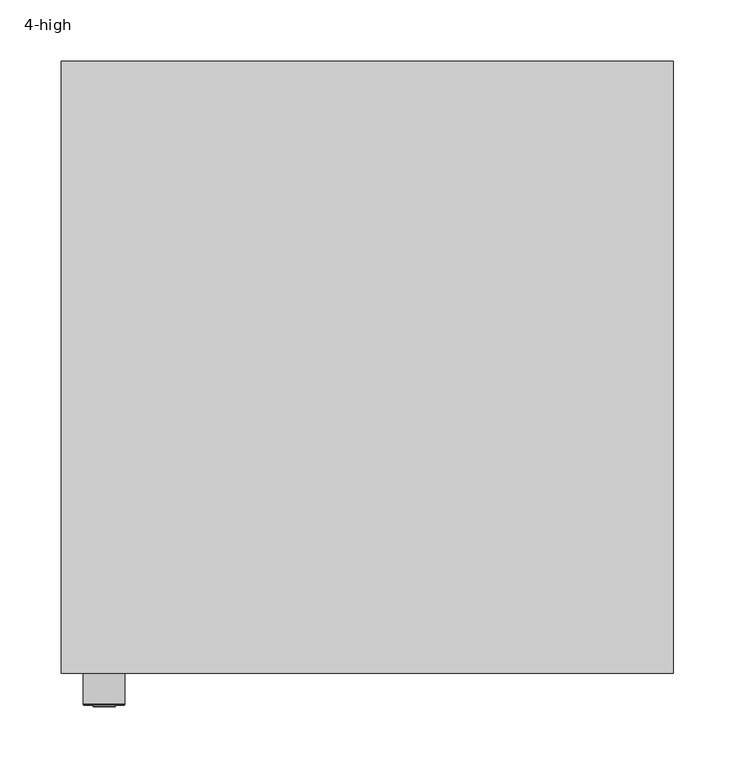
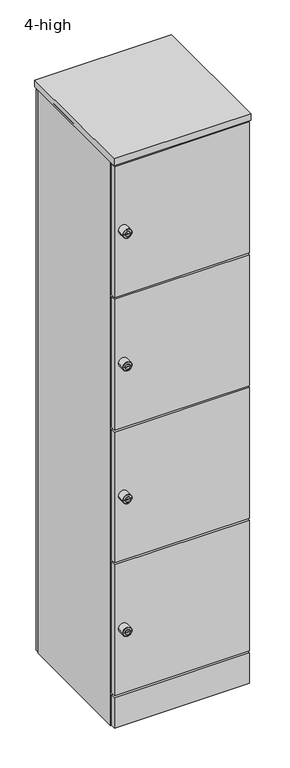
"""IFC4 building model written with IfcOpenShell, lengths in millimetres: furniture geometry, Furniture_Storage_Spacestor_SignatureHotLocker : 4-high."""

from ifc_helpers import new_model, si_unit, point, frame, origin, origin_with_axes, place, context, project, spatial, polyline, circle_curve, ellipse_curve, trimmed, outline, extrude, source, transform, mapped, element, save
from ifc_brep_helpers import plane_surface, cylinder_surface, revolved_surface, advanced_brep


def furniture_4_high_dffadb12(model_context):
    return source(origin(), model_context, "Body", "SolidModel", [
        extrude(outline(polyline([(489.0, 0.0), (11.0, 0.0), (11.0, 459.0), (489.0, 459.0), (489.0, 0.0)])), frame((0.0, 0.0, 2158.5), z_axis=(0.0, 0.0, 1.0), x_axis=(1.0, 0.0, 0.0)), (0.0, 0.0, 1.0), 22.0),
        extrude(outline(polyline([(489.0, 0.0), (11.0, 0.0), (11.0, 459.0), (489.0, 459.0), (489.0, 0.0)])), frame((0.0, 0.0, 1646.5), z_axis=(0.0, 0.0, 1.0), x_axis=(1.0, 0.0, 0.0)), (0.0, 0.0, 1.0), 22.0),
        extrude(outline(polyline([(489.0, 0.0), (11.0, 0.0), (11.0, 459.0), (489.0, 459.0), (489.0, 0.0)])), frame((0.0, 0.0, 1134.5), z_axis=(0.0, 0.0, 1.0), x_axis=(1.0, 0.0, 0.0)), (0.0, 0.0, 1.0), 22.0),
        extrude(outline(polyline([(489.0, 0.0), (11.0, 0.0), (11.0, 459.0), (489.0, 459.0), (489.0, 0.0)])), frame((0.0, 0.0, 622.5), z_axis=(0.0, 0.0, 1.0), x_axis=(1.0, 0.0, 0.0)), (0.0, 0.0, 1.0), 22.0),
        advanced_brep(
        [(18.0, -45.3116344, 1913.5), (52.0, -45.3116344, 1913.5), (52.0, -18.0, 1913.5), (18.0, -18.0, 1913.5), (35.0, -18.0, 1913.5), (26.0252681, -46.3150077, 1913.5), (43.9747319, -46.3150077, 1913.5), (50.9966266, -46.3150077, 1913.5), (19.0033734, -46.3150077, 1913.5), (26.0252681, -47.4703043, 1913.5), (43.9747319, -47.4703043, 1913.5), (30.1754848, -47.4703043, 1913.5), (30.1754848, -47.4703043, 1914.8633438), (39.8245152, -47.4703043, 1914.8633438), (39.8245152, -47.4703043, 1913.5), (39.8245152, -47.4703043, 1912.1366562), (30.1754848, -47.4703043, 1912.1366562), (39.8245152, -27.8604291, 1914.8633438), (30.1754848, -27.8604291, 1914.8633438), (30.1754848, -27.8604291, 1912.1366562), (39.8245152, -27.8604291, 1912.1366562)],
        [
            (0, 1, circle_curve(frame((35.0, -45.3116344, 1913.5), z_axis=(0.0, 1.0, 0.0), x_axis=(1.0, 0.0, 0.0)), 17.0)),
            (1, 2),
            (2, 3, circle_curve(frame((35.0, -18.0, 1913.5), z_axis=(0.0, -1.0, 0.0), x_axis=(1.0, 0.0, 0.0)), 17.0)),
            (3, 0),
            (1, 0, circle_curve(frame((35.0, -45.3116344, 1913.5), z_axis=(0.0, 1.0, 0.0), x_axis=(1.0, 0.0, 0.0)), 17.0)),
            (3, 2, circle_curve(frame((35.0, -18.0, 1913.5), z_axis=(0.0, -1.0, 0.0), x_axis=(1.0, 0.0, 0.0)), 17.0)),
            (2, 4),
            (4, 3),
            (5, 6, circle_curve(frame((35.0, -46.3150077, 1913.5), z_axis=(0.0, 1.0, 0.0), x_axis=(1.0, 0.0, 0.0)), 8.9747319)),
            (6, 7),
            (7, 8, circle_curve(frame((35.0, -46.3150077, 1913.5), z_axis=(0.0, -1.0, 0.0), x_axis=(1.0, 0.0, 0.0)), 15.9966266)),
            (8, 5),
            (6, 5, circle_curve(frame((35.0, -46.3150077, 1913.5), z_axis=(0.0, 1.0, 0.0), x_axis=(1.0, 0.0, 0.0)), 8.9747319)),
            (8, 7, circle_curve(frame((35.0, -46.3150077, 1913.5), z_axis=(0.0, -1.0, 0.0), x_axis=(1.0, 0.0, 0.0)), 15.9966266)),
            (0, 8, circle_curve(frame((19.0033734, -45.3116344, 1913.5), z_axis=(0.0, 0.0, 1.0), x_axis=(-1.0, 0.0, 0.0)), 1.0033734)),
            (7, 1, circle_curve(frame((50.9966266, -45.3116344, 1913.5), z_axis=(0.0, 0.0, 1.0), x_axis=(1.0, 0.0, 0.0)), 1.0033734)),
            (5, 9),
            (9, 10, circle_curve(frame((35.0, -47.4703043, 1913.5), z_axis=(0.0, 1.0, 0.0), x_axis=(1.0, 0.0, 0.0)), 8.9747319)),
            (10, 6),
            (10, 9, circle_curve(frame((35.0, -47.4703043, 1913.5), z_axis=(0.0, 1.0, 0.0), x_axis=(1.0, 0.0, 0.0)), 8.9747319)),
            (9, 11),
            (11, 12),
            (12, 13),
            (13, 14),
            (14, 10),
            (14, 15),
            (15, 16),
            (16, 11),
            (17, 18),
            (18, 19),
            (19, 20),
            (20, 17),
            (17, 13),
            (12, 18),
            (16, 19),
            (15, 20),
        ],
        [
            cylinder_surface(frame((35.0, -2627.0581012, 1913.5), z_axis=(0.0, -1.0, 0.0), x_axis=(1.0, 0.0, 0.0)), 17.0),
            plane_surface(frame((35.0, -18.0, 1913.5), z_axis=(0.0, 1.0, 0.0), x_axis=(1.0, 0.0, 0.0))),
            plane_surface(frame((35.0, -46.3150077, 1913.5), z_axis=(0.0, -1.0, 0.0), x_axis=(1.0, 0.0, 0.0))),
            revolved_surface(trimmed(ellipse_curve(frame((50.9966266, -45.3116344, 1913.5), z_axis=(0.0, 0.0, -1.0), x_axis=(1.0, 0.0, 0.0)), 1.0033734, 1.0033734), [point((52.0, -45.3116344, 1913.5))], [point((50.9966266, -46.3150077, 1913.5))], True, "CARTESIAN"), (35.0, -2627.0581012, 1913.5), (0.0, -1.0, 0.0)),
            cylinder_surface(frame((35.0, -2627.0581012, 1913.5), z_axis=(0.0, -1.0, 0.0), x_axis=(1.0, 0.0, 0.0)), 8.9747319),
            plane_surface(frame((35.0, -47.4703043, 1913.5), z_axis=(0.0, -1.0, 0.0), x_axis=(1.0, 0.0, 0.0))),
            plane_surface(frame((30.5434751, -27.8604291, 1914.8633438), z_axis=(0.0, -1.0, 0.0), x_axis=(1.0, 0.0, 0.0))),
            plane_surface(frame((39.8245152, -49.2046383, 1914.8633438), z_axis=(0.0, 0.0, -1.0), x_axis=(0.0, 1.0, 0.0))),
            plane_surface(frame((30.1754848, -49.2046383, 1914.8633438), z_axis=(1.0, 0.0, 0.0), x_axis=(0.0, 1.0, 0.0))),
            plane_surface(frame((30.1754848, -49.2046383, 1912.1366562), z_axis=(0.0, 0.0, 1.0), x_axis=(0.0, 1.0, 0.0))),
            plane_surface(frame((39.8245152, -49.2046383, 1912.1366562), z_axis=(-1.0, 0.0, 0.0), x_axis=(0.0, 1.0, 0.0))),
        ],
        [
            (0, [[1, 2, 3, 4]]),
            (0, [[-2, 5, -4, 6]]),
            (1, [[-3, 7, 8]]),
            (1, [[-6, -8, -7]]),
            (2, [[9, 10, 11, 12]]),
            (2, [[-10, 13, -12, 14]]),
            (3, [[-1, 15, -11, 16]]),
            (3, [[-5, -16, -14, -15]]),
            (4, [[-9, 17, 18, 19]]),
            (4, [[-13, -19, 20, -17]]),
            (5, [[-18, 21, 22, 23, 24, 25]]),
            (5, [[-20, -25, 26, 27, 28, -21]]),
            (6, [[29, 30, 31, 32]]),
            (7, [[-29, 33, -23, 34]]),
            (8, [[-30, -34, -22, -28, 35]]),
            (9, [[-31, -35, -27, 36]]),
            (10, [[-32, -36, -26, -24, -33]]),
        ],
    ),
        advanced_brep(
        [(18.0, -45.3116344, 1401.5), (52.0, -45.3116344, 1401.5), (52.0, -18.0, 1401.5), (18.0, -18.0, 1401.5), (35.0, -18.0, 1401.5), (26.0252681, -46.3150077, 1401.5), (43.9747319, -46.3150077, 1401.5), (50.9966266, -46.3150077, 1401.5), (19.0033734, -46.3150077, 1401.5), (26.0252681, -47.4703043, 1401.5), (43.9747319, -47.4703043, 1401.5), (30.1754848, -47.4703043, 1401.5), (30.1754848, -47.4703043, 1402.8633438), (39.8245152, -47.4703043, 1402.8633438), (39.8245152, -47.4703043, 1401.5), (39.8245152, -47.4703043, 1400.1366562), (30.1754848, -47.4703043, 1400.1366562), (39.8245152, -27.8604291, 1402.8633438), (30.1754848, -27.8604291, 1402.8633438), (30.1754848, -27.8604291, 1400.1366562), (39.8245152, -27.8604291, 1400.1366562)],
        [
            (0, 1, circle_curve(frame((35.0, -45.3116344, 1401.5), z_axis=(0.0, 1.0, 0.0), x_axis=(1.0, 0.0, 0.0)), 17.0)),
            (1, 2),
            (2, 3, circle_curve(frame((35.0, -18.0, 1401.5), z_axis=(0.0, -1.0, 0.0), x_axis=(1.0, 0.0, 0.0)), 17.0)),
            (3, 0),
            (1, 0, circle_curve(frame((35.0, -45.3116344, 1401.5), z_axis=(0.0, 1.0, 0.0), x_axis=(1.0, 0.0, 0.0)), 17.0)),
            (3, 2, circle_curve(frame((35.0, -18.0, 1401.5), z_axis=(0.0, -1.0, 0.0), x_axis=(1.0, 0.0, 0.0)), 17.0)),
            (2, 4),
            (4, 3),
            (5, 6, circle_curve(frame((35.0, -46.3150077, 1401.5), z_axis=(0.0, 1.0, 0.0), x_axis=(1.0, 0.0, 0.0)), 8.9747319)),
            (6, 7),
            (7, 8, circle_curve(frame((35.0, -46.3150077, 1401.5), z_axis=(0.0, -1.0, 0.0), x_axis=(1.0, 0.0, 0.0)), 15.9966266)),
            (8, 5),
            (6, 5, circle_curve(frame((35.0, -46.3150077, 1401.5), z_axis=(0.0, 1.0, 0.0), x_axis=(1.0, 0.0, 0.0)), 8.9747319)),
            (8, 7, circle_curve(frame((35.0, -46.3150077, 1401.5), z_axis=(0.0, -1.0, 0.0), x_axis=(1.0, 0.0, 0.0)), 15.9966266)),
            (0, 8, circle_curve(frame((19.0033734, -45.3116344, 1401.5), z_axis=(0.0, 0.0, 1.0), x_axis=(-1.0, 0.0, 0.0)), 1.0033734)),
            (7, 1, circle_curve(frame((50.9966266, -45.3116344, 1401.5), z_axis=(0.0, 0.0, 1.0), x_axis=(1.0, 0.0, 0.0)), 1.0033734)),
            (5, 9),
            (9, 10, circle_curve(frame((35.0, -47.4703043, 1401.5), z_axis=(0.0, 1.0, 0.0), x_axis=(1.0, 0.0, 0.0)), 8.9747319)),
            (10, 6),
            (10, 9, circle_curve(frame((35.0, -47.4703043, 1401.5), z_axis=(0.0, 1.0, 0.0), x_axis=(1.0, 0.0, 0.0)), 8.9747319)),
            (9, 11),
            (11, 12),
            (12, 13),
            (13, 14),
            (14, 10),
            (14, 15),
            (15, 16),
            (16, 11),
            (17, 18),
            (18, 19),
            (19, 20),
            (20, 17),
            (17, 13),
            (12, 18),
            (16, 19),
            (15, 20),
        ],
        [
            cylinder_surface(frame((35.0, -2627.0581012, 1401.5), z_axis=(0.0, -1.0, 0.0), x_axis=(1.0, 0.0, 0.0)), 17.0),
            plane_surface(frame((35.0, -18.0, 1401.5), z_axis=(0.0, 1.0, 0.0), x_axis=(1.0, 0.0, 0.0))),
            plane_surface(frame((35.0, -46.3150077, 1401.5), z_axis=(0.0, -1.0, 0.0), x_axis=(1.0, 0.0, 0.0))),
            revolved_surface(trimmed(ellipse_curve(frame((50.9966266, -45.3116344, 1401.5), z_axis=(0.0, 0.0, -1.0), x_axis=(1.0, 0.0, 0.0)), 1.0033734, 1.0033734), [point((52.0, -45.3116344, 1401.5))], [point((50.9966266, -46.3150077, 1401.5))], True, "CARTESIAN"), (35.0, -2627.0581012, 1401.5), (0.0, -1.0, 0.0)),
            cylinder_surface(frame((35.0, -2627.0581012, 1401.5), z_axis=(0.0, -1.0, 0.0), x_axis=(1.0, 0.0, 0.0)), 8.9747319),
            plane_surface(frame((35.0, -47.4703043, 1401.5), z_axis=(0.0, -1.0, 0.0), x_axis=(1.0, 0.0, 0.0))),
            plane_surface(frame((30.5434751, -27.8604291, 1402.8633438), z_axis=(0.0, -1.0, 0.0), x_axis=(1.0, 0.0, 0.0))),
            plane_surface(frame((39.8245152, -49.2046383, 1402.8633438), z_axis=(0.0, 0.0, -1.0), x_axis=(0.0, 1.0, 0.0))),
            plane_surface(frame((30.1754848, -49.2046383, 1402.8633438), z_axis=(1.0, 0.0, 0.0), x_axis=(0.0, 1.0, 0.0))),
            plane_surface(frame((30.1754848, -49.2046383, 1400.1366562), z_axis=(0.0, 0.0, 1.0), x_axis=(0.0, 1.0, 0.0))),
            plane_surface(frame((39.8245152, -49.2046383, 1400.1366562), z_axis=(-1.0, 0.0, 0.0), x_axis=(0.0, 1.0, 0.0))),
        ],
        [
            (0, [[1, 2, 3, 4]]),
            (0, [[-2, 5, -4, 6]]),
            (1, [[-3, 7, 8]]),
            (1, [[-6, -8, -7]]),
            (2, [[9, 10, 11, 12]]),
            (2, [[-10, 13, -12, 14]]),
            (3, [[-1, 15, -11, 16]]),
            (3, [[-5, -16, -14, -15]]),
            (4, [[-9, 17, 18, 19]]),
            (4, [[-13, -19, 20, -17]]),
            (5, [[-18, 21, 22, 23, 24, 25]]),
            (5, [[-20, -25, 26, 27, 28, -21]]),
            (6, [[29, 30, 31, 32]]),
            (7, [[-29, 33, -23, 34]]),
            (8, [[-30, -34, -22, -28, 35]]),
            (9, [[-31, -35, -27, 36]]),
            (10, [[-32, -36, -26, -24, -33]]),
        ],
    ),
        advanced_brep(
        [(18.0, -45.3116344, 889.5), (52.0, -45.3116344, 889.5), (52.0, -18.0, 889.5), (18.0, -18.0, 889.5), (35.0, -18.0, 889.5), (26.0252681, -46.3150077, 889.5), (43.9747319, -46.3150077, 889.5), (50.9966266, -46.3150077, 889.5), (19.0033734, -46.3150077, 889.5), (26.0252681, -47.4703043, 889.5), (43.9747319, -47.4703043, 889.5), (30.1754848, -47.4703043, 889.5), (30.1754848, -47.4703043, 890.8633438), (39.8245152, -47.4703043, 890.8633438), (39.8245152, -47.4703043, 889.5), (39.8245152, -47.4703043, 888.1366562), (30.1754848, -47.4703043, 888.1366562), (39.8245152, -27.8604291, 890.8633438), (30.1754848, -27.8604291, 890.8633438), (30.1754848, -27.8604291, 888.1366562), (39.8245152, -27.8604291, 888.1366562)],
        [
            (0, 1, circle_curve(frame((35.0, -45.3116344, 889.5), z_axis=(0.0, 1.0, 0.0), x_axis=(1.0, 0.0, 0.0)), 17.0)),
            (1, 2),
            (2, 3, circle_curve(frame((35.0, -18.0, 889.5), z_axis=(0.0, -1.0, 0.0), x_axis=(1.0, 0.0, 0.0)), 17.0)),
            (3, 0),
            (1, 0, circle_curve(frame((35.0, -45.3116344, 889.5), z_axis=(0.0, 1.0, 0.0), x_axis=(1.0, 0.0, 0.0)), 17.0)),
            (3, 2, circle_curve(frame((35.0, -18.0, 889.5), z_axis=(0.0, -1.0, 0.0), x_axis=(1.0, 0.0, 0.0)), 17.0)),
            (2, 4),
            (4, 3),
            (5, 6, circle_curve(frame((35.0, -46.3150077, 889.5), z_axis=(0.0, 1.0, 0.0), x_axis=(1.0, 0.0, 0.0)), 8.9747319)),
            (6, 7),
            (7, 8, circle_curve(frame((35.0, -46.3150077, 889.5), z_axis=(0.0, -1.0, 0.0), x_axis=(1.0, 0.0, 0.0)), 15.9966266)),
            (8, 5),
            (6, 5, circle_curve(frame((35.0, -46.3150077, 889.5), z_axis=(0.0, 1.0, 0.0), x_axis=(1.0, 0.0, 0.0)), 8.9747319)),
            (8, 7, circle_curve(frame((35.0, -46.3150077, 889.5), z_axis=(0.0, -1.0, 0.0), x_axis=(1.0, 0.0, 0.0)), 15.9966266)),
            (0, 8, circle_curve(frame((19.0033734, -45.3116344, 889.5), z_axis=(0.0, 0.0, 1.0), x_axis=(-1.0, 0.0, 0.0)), 1.0033734)),
            (7, 1, circle_curve(frame((50.9966266, -45.3116344, 889.5), z_axis=(0.0, 0.0, 1.0), x_axis=(1.0, 0.0, 0.0)), 1.0033734)),
            (5, 9),
            (9, 10, circle_curve(frame((35.0, -47.4703043, 889.5), z_axis=(0.0, 1.0, 0.0), x_axis=(1.0, 0.0, 0.0)), 8.9747319)),
            (10, 6),
            (10, 9, circle_curve(frame((35.0, -47.4703043, 889.5), z_axis=(0.0, 1.0, 0.0), x_axis=(1.0, 0.0, 0.0)), 8.9747319)),
            (9, 11),
            (11, 12),
            (12, 13),
            (13, 14),
            (14, 10),
            (14, 15),
            (15, 16),
            (16, 11),
            (17, 18),
            (18, 19),
            (19, 20),
            (20, 17),
            (17, 13),
            (12, 18),
            (16, 19),
            (15, 20),
        ],
        [
            cylinder_surface(frame((35.0, -2627.0581012, 889.5), z_axis=(0.0, -1.0, 0.0), x_axis=(1.0, 0.0, 0.0)), 17.0),
            plane_surface(frame((35.0, -18.0, 889.5), z_axis=(0.0, 1.0, 0.0), x_axis=(1.0, 0.0, 0.0))),
            plane_surface(frame((35.0, -46.3150077, 889.5), z_axis=(0.0, -1.0, 0.0), x_axis=(1.0, 0.0, 0.0))),
            revolved_surface(trimmed(ellipse_curve(frame((50.9966266, -45.3116344, 889.5), z_axis=(0.0, 0.0, -1.0), x_axis=(1.0, 0.0, 0.0)), 1.0033734, 1.0033734), [point((52.0, -45.3116344, 889.5))], [point((50.9966266, -46.3150077, 889.5))], True, "CARTESIAN"), (35.0, -2627.0581012, 889.5), (0.0, -1.0, 0.0)),
            cylinder_surface(frame((35.0, -2627.0581012, 889.5), z_axis=(0.0, -1.0, 0.0), x_axis=(1.0, 0.0, 0.0)), 8.9747319),
            plane_surface(frame((35.0, -47.4703043, 889.5), z_axis=(0.0, -1.0, 0.0), x_axis=(1.0, 0.0, 0.0))),
            plane_surface(frame((30.5434751, -27.8604291, 890.8633438), z_axis=(0.0, -1.0, 0.0), x_axis=(1.0, 0.0, 0.0))),
            plane_surface(frame((39.8245152, -49.2046383, 890.8633438), z_axis=(0.0, 0.0, -1.0), x_axis=(0.0, 1.0, 0.0))),
            plane_surface(frame((30.1754848, -49.2046383, 890.8633438), z_axis=(1.0, 0.0, 0.0), x_axis=(0.0, 1.0, 0.0))),
            plane_surface(frame((30.1754848, -49.2046383, 888.1366562), z_axis=(0.0, 0.0, 1.0), x_axis=(0.0, 1.0, 0.0))),
            plane_surface(frame((39.8245152, -49.2046383, 888.1366562), z_axis=(-1.0, 0.0, 0.0), x_axis=(0.0, 1.0, 0.0))),
        ],
        [
            (0, [[1, 2, 3, 4]]),
            (0, [[-2, 5, -4, 6]]),
            (1, [[-3, 7, 8]]),
            (1, [[-6, -8, -7]]),
            (2, [[9, 10, 11, 12]]),
            (2, [[-10, 13, -12, 14]]),
            (3, [[-1, 15, -11, 16]]),
            (3, [[-5, -16, -14, -15]]),
            (4, [[-9, 17, 18, 19]]),
            (4, [[-13, -19, 20, -17]]),
            (5, [[-18, 21, 22, 23, 24, 25]]),
            (5, [[-20, -25, 26, 27, 28, -21]]),
            (6, [[29, 30, 31, 32]]),
            (7, [[-29, 33, -23, 34]]),
            (8, [[-30, -34, -22, -28, 35]]),
            (9, [[-31, -35, -27, 36]]),
            (10, [[-32, -36, -26, -24, -33]]),
        ],
    ),
        advanced_brep(
        [(18.0, -45.3116344, 377.5), (52.0, -45.3116344, 377.5), (52.0, -18.0, 377.5), (18.0, -18.0, 377.5), (35.0, -18.0, 377.5), (26.0252681, -46.3150077, 377.5), (43.9747319, -46.3150077, 377.5), (50.9966266, -46.3150077, 377.5), (19.0033734, -46.3150077, 377.5), (26.0252681, -47.4703043, 377.5), (43.9747319, -47.4703043, 377.5), (30.1754848, -47.4703043, 377.5), (30.1754848, -47.4703043, 378.8633438), (39.8245152, -47.4703043, 378.8633438), (39.8245152, -47.4703043, 377.5), (39.8245152, -47.4703043, 376.1366562), (30.1754848, -47.4703043, 376.1366562), (39.8245152, -27.8604291, 378.8633438), (30.1754848, -27.8604291, 378.8633438), (30.1754848, -27.8604291, 376.1366562), (39.8245152, -27.8604291, 376.1366562)],
        [
            (0, 1, circle_curve(frame((35.0, -45.3116344, 377.5), z_axis=(0.0, 1.0, 0.0), x_axis=(1.0, 0.0, 0.0)), 17.0)),
            (1, 2),
            (2, 3, circle_curve(frame((35.0, -18.0, 377.5), z_axis=(0.0, -1.0, 0.0), x_axis=(1.0, 0.0, 0.0)), 17.0)),
            (3, 0),
            (1, 0, circle_curve(frame((35.0, -45.3116344, 377.5), z_axis=(0.0, 1.0, 0.0), x_axis=(1.0, 0.0, 0.0)), 17.0)),
            (3, 2, circle_curve(frame((35.0, -18.0, 377.5), z_axis=(0.0, -1.0, 0.0), x_axis=(1.0, 0.0, 0.0)), 17.0)),
            (2, 4),
            (4, 3),
            (5, 6, circle_curve(frame((35.0, -46.3150077, 377.5), z_axis=(0.0, 1.0, 0.0), x_axis=(1.0, 0.0, 0.0)), 8.9747319)),
            (6, 7),
            (7, 8, circle_curve(frame((35.0, -46.3150077, 377.5), z_axis=(0.0, -1.0, 0.0), x_axis=(1.0, 0.0, 0.0)), 15.9966266)),
            (8, 5),
            (6, 5, circle_curve(frame((35.0, -46.3150077, 377.5), z_axis=(0.0, 1.0, 0.0), x_axis=(1.0, 0.0, 0.0)), 8.9747319)),
            (8, 7, circle_curve(frame((35.0, -46.3150077, 377.5), z_axis=(0.0, -1.0, 0.0), x_axis=(1.0, 0.0, 0.0)), 15.9966266)),
            (0, 8, circle_curve(frame((19.0033734, -45.3116344, 377.5), z_axis=(0.0, 0.0, 1.0), x_axis=(-1.0, 0.0, 0.0)), 1.0033734)),
            (7, 1, circle_curve(frame((50.9966266, -45.3116344, 377.5), z_axis=(0.0, 0.0, 1.0), x_axis=(1.0, 0.0, 0.0)), 1.0033734)),
            (5, 9),
            (9, 10, circle_curve(frame((35.0, -47.4703043, 377.5), z_axis=(0.0, 1.0, 0.0), x_axis=(1.0, 0.0, 0.0)), 8.9747319)),
            (10, 6),
            (10, 9, circle_curve(frame((35.0, -47.4703043, 377.5), z_axis=(0.0, 1.0, 0.0), x_axis=(1.0, 0.0, 0.0)), 8.9747319)),
            (9, 11),
            (11, 12),
            (12, 13),
            (13, 14),
            (14, 10),
            (14, 15),
            (15, 16),
            (16, 11),
            (17, 18),
            (18, 19),
            (19, 20),
            (20, 17),
            (17, 13),
            (12, 18),
            (16, 19),
            (15, 20),
        ],
        [
            cylinder_surface(frame((35.0, -2627.0581012, 377.5), z_axis=(0.0, -1.0, 0.0), x_axis=(1.0, 0.0, 0.0)), 17.0),
            plane_surface(frame((35.0, -18.0, 377.5), z_axis=(0.0, 1.0, 0.0), x_axis=(1.0, 0.0, 0.0))),
            plane_surface(frame((35.0, -46.3150077, 377.5), z_axis=(0.0, -1.0, 0.0), x_axis=(1.0, 0.0, 0.0))),
            revolved_surface(trimmed(ellipse_curve(frame((50.9966266, -45.3116344, 377.5), z_axis=(0.0, 0.0, -1.0), x_axis=(1.0, 0.0, 0.0)), 1.0033734, 1.0033734), [point((52.0, -45.3116344, 377.5))], [point((50.9966266, -46.3150077, 377.5))], True, "CARTESIAN"), (35.0, -2627.0581012, 377.5), (0.0, -1.0, 0.0)),
            cylinder_surface(frame((35.0, -2627.0581012, 377.5), z_axis=(0.0, -1.0, 0.0), x_axis=(1.0, 0.0, 0.0)), 8.9747319),
            plane_surface(frame((35.0, -47.4703043, 377.5), z_axis=(0.0, -1.0, 0.0), x_axis=(1.0, 0.0, 0.0))),
            plane_surface(frame((30.5434751, -27.8604291, 378.8633438), z_axis=(0.0, -1.0, 0.0), x_axis=(1.0, 0.0, 0.0))),
            plane_surface(frame((39.8245152, -49.2046383, 378.8633438), z_axis=(0.0, 0.0, -1.0), x_axis=(0.0, 1.0, 0.0))),
            plane_surface(frame((30.1754848, -49.2046383, 378.8633438), z_axis=(1.0, 0.0, 0.0), x_axis=(0.0, 1.0, 0.0))),
            plane_surface(frame((30.1754848, -49.2046383, 376.1366562), z_axis=(0.0, 0.0, 1.0), x_axis=(0.0, 1.0, 0.0))),
            plane_surface(frame((39.8245152, -49.2046383, 376.1366562), z_axis=(-1.0, 0.0, 0.0), x_axis=(0.0, 1.0, 0.0))),
        ],
        [
            (0, [[1, 2, 3, 4]]),
            (0, [[-2, 5, -4, 6]]),
            (1, [[-3, 7, 8]]),
            (1, [[-6, -8, -7]]),
            (2, [[9, 10, 11, 12]]),
            (2, [[-10, 13, -12, 14]]),
            (3, [[-1, 15, -11, 16]]),
            (3, [[-5, -16, -14, -15]]),
            (4, [[-9, 17, 18, 19]]),
            (4, [[-13, -19, 20, -17]]),
            (5, [[-18, 21, 22, 23, 24, 25]]),
            (5, [[-20, -25, 26, 27, 28, -21]]),
            (6, [[29, 30, 31, 32]]),
            (7, [[-29, 33, -23, 34]]),
            (8, [[-30, -34, -22, -28, 35]]),
            (9, [[-31, -35, -27, 36]]),
            (10, [[-32, -36, -26, -24, -33]]),
        ],
    ),
        extrude(outline(polyline([(496.5, -18.0), (3.5, -18.0), (3.5, 0.0), (496.5, 0.0), (496.5, -18.0)])), frame((0.0, 0.0, 1661.0), z_axis=(0.0, 0.0, 1.0), x_axis=(1.0, 0.0, 0.0)), (0.0, 0.0, 1.0), 505.0),
        extrude(outline(polyline([(496.5, -18.0), (3.5, -18.0), (3.5, 0.0), (496.5, 0.0), (496.5, -18.0)])), frame((0.0, 0.0, 1149.0), z_axis=(0.0, 0.0, 1.0), x_axis=(1.0, 0.0, 0.0)), (0.0, 0.0, 1.0), 505.0),
        extrude(outline(polyline([(496.5, -18.0), (3.5, -18.0), (3.5, 0.0), (496.5, 0.0), (496.5, -18.0)])), frame((0.0, 0.0, 637.0), z_axis=(0.0, 0.0, 1.0), x_axis=(1.0, 0.0, 0.0)), (0.0, 0.0, 1.0), 505.0),
        extrude(outline(polyline([(496.5, -18.0), (3.5, -18.0), (3.5, 0.0), (496.5, 0.0), (496.5, -18.0)])), frame((0.0, 0.0, 125.0), z_axis=(0.0, 0.0, 1.0), x_axis=(1.0, 0.0, 0.0)), (0.0, 0.0, 1.0), 505.0),
        extrude(outline(polyline([(489.0, 0.0), (11.0, 0.0), (11.0, 459.0), (489.0, 459.0), (489.0, 0.0)])), frame((0.0, 0.0, 110.5), z_axis=(0.0, 0.0, 1.0), x_axis=(1.0, 0.0, 0.0)), (0.0, 0.0, 1.0), 22.0),
        extrude(outline(polyline([(496.5, 459.0), (3.5, 459.0), (3.5, 477.0), (496.5, 477.0), (496.5, 459.0)])), origin_with_axes(), (0.0, 0.0, 1.0), 2166.0),
        extrude(outline(polyline([(496.5, -18.0), (3.5, -18.0), (3.5, 0.0), (496.5, 0.0), (496.5, -18.0)])), origin_with_axes(), (0.0, 0.0, 1.0), 118.0),
        extrude(outline(polyline([(500.0, -20.5), (0.0, -20.5), (0.0, 479.5), (500.0, 479.5), (500.0, -20.5)])), frame((0.0, 0.0, 2173.0), z_axis=(0.0, 0.0, 1.0), x_axis=(1.0, 0.0, 0.0)), (0.0, 0.0, 1.0), 25.5),
        extrude(outline(polyline([(500.0, 0.0), (489.0, 0.0), (489.0, 459.0), (500.0, 459.0), (500.0, 0.0)])), origin_with_axes(), (0.0, 0.0, 1.0), 2180.5),
        extrude(outline(polyline([(11.0, 0.0), (0.0, 0.0), (0.0, 459.0), (11.0, 459.0), (11.0, 0.0)])), origin_with_axes(), (0.0, 0.0, 1.0), 2180.5),
    ])


if __name__ == "__main__":
    model = new_model("IFC4")
    model_context = context("Model", 3, world=origin())
    ifc_project = project(units=[si_unit("LENGTHUNIT", "METRE", prefix="MILLI")], contexts=[model_context])
    site = spatial("IfcSite", under=ifc_project)
    building = spatial("IfcBuilding", under=site)
    placement = place(None, origin())
    furniture_4_high_shape = furniture_4_high_dffadb12(model_context)
    element("IfcFurniture", 1, ObjectType="Furniture_Storage_Spacestor_SignatureHotLocker : 4-high", at=placement, inside=building, context=model_context, shape_type="MappedRepresentation", body=[
        mapped(furniture_4_high_shape, transform((0.0, 0.0, 0.0), x_axis=(1.0, 0.0, 0.0), y_axis=(0.0, 1.0, 0.0), z_axis=(0.0, 0.0, 1.0))),
    ])
    save(model, "model.ifc")
